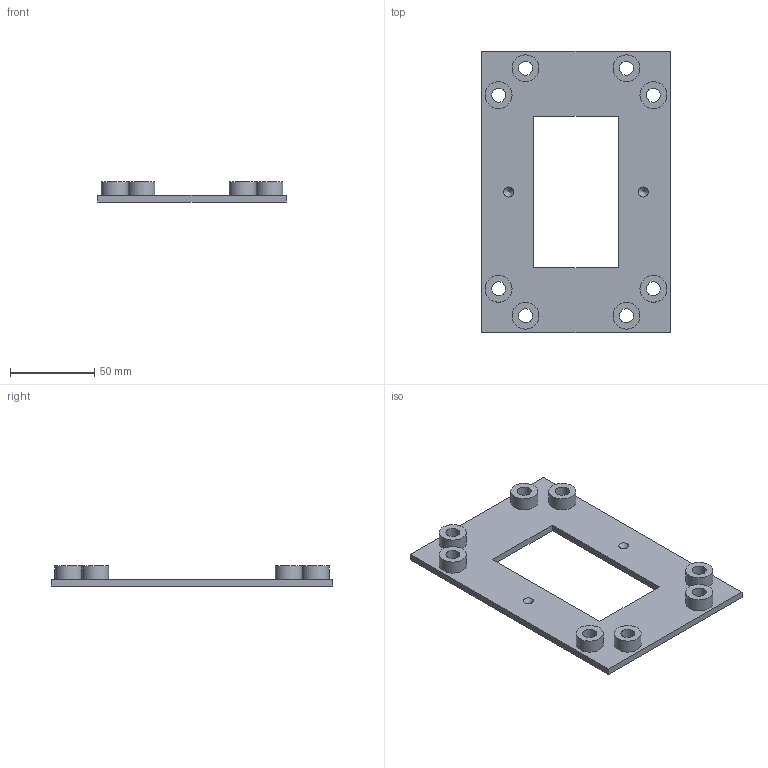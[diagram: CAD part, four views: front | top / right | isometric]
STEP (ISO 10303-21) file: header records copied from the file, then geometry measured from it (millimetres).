
FILE_DESCRIPTION(('Open CASCADE Model'),'2;1');
FILE_NAME('Open CASCADE Shape Model','2026-10-23T08:22:13',('Author'),( 'Open CASCADE'),'Open CASCADE STEP processor 7.9','Open CASCADE 7.9' ,'Unknown');
FILE_SCHEMA(('AUTOMOTIVE_DESIGN { 1 0 10303 214 1 1 1 1 }'));
Length unit declared in the file: millimetre
Products named in the file (1): Open CASCADE STEP translator 7.9 15
Bounding box: 112 x 167 x 12 mm (x, y, z)
Volume: 64429.8 mm3; surface area: 36640.6 mm2
Topology: 1 solids, 1 shells, 38 faces, 78 edges, 52 vertices
Faces by surface type: plane 20, cylinder 16, cone 2
Full cylindrical faces by diameter (mm): 8.3 x8, 16 x8
Entity records: 2078 total; most frequent: DIRECTION 348, CARTESIAN_POINT 325, LINE 162, VECTOR 162, ORIENTED_EDGE 156, PCURVE 156, DEFINITIONAL_REPRESENTATION 156, EDGE_CURVE 78
